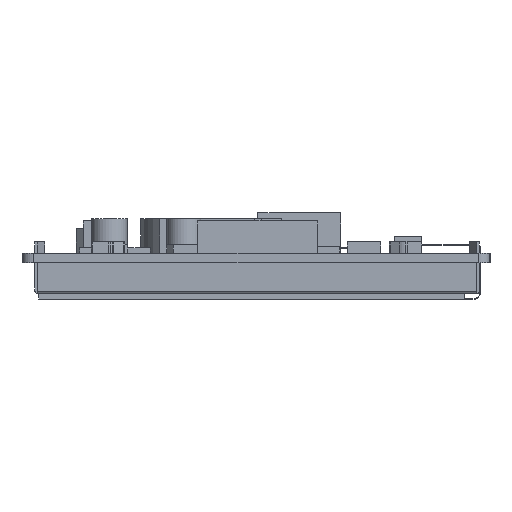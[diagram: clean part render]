
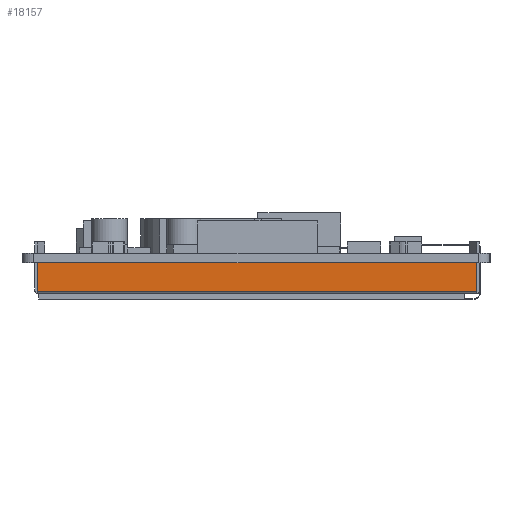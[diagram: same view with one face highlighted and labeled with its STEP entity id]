
A CAD part, left-side view. The second image highlights one B-rep face of the part: STEP entity #18157.
In plain terms, the highlighted planar face has unit normal (-1, 0, 0).
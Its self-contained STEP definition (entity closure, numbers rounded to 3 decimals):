
#18157=ADVANCED_FACE('',(#22253),#20198,.F.);
#20198=PLANE('',#50581);
#22253=FACE_OUTER_BOUND('',#24374,.T.);
#24374=EDGE_LOOP('',(#32302,#32303,#32304,#32305));
#32302=ORIENTED_EDGE('',*,*,#39910,.F.);
#32303=ORIENTED_EDGE('',*,*,#39911,.T.);
#32304=ORIENTED_EDGE('',*,*,#39912,.T.);
#32305=ORIENTED_EDGE('',*,*,#39913,.T.);
#35758=VERTEX_POINT('',#67839);
#35759=VERTEX_POINT('',#67840);
#35760=VERTEX_POINT('',#67842);
#35761=VERTEX_POINT('',#67844);
#39910=EDGE_CURVE('',#35758,#35759,#44115,.T.);
#39911=EDGE_CURVE('',#35758,#35760,#44116,.T.);
#39912=EDGE_CURVE('',#35760,#35761,#44117,.T.);
#39913=EDGE_CURVE('',#35761,#35759,#44118,.T.);
#44115=LINE('',#67838,#48245);
#44116=LINE('',#67841,#48246);
#44117=LINE('',#67843,#48247);
#44118=LINE('',#67845,#48248);
#48245=VECTOR('',#58518,1.);
#48246=VECTOR('',#58519,1.);
#48247=VECTOR('',#58520,1.);
#48248=VECTOR('',#58521,1.);
#50581=AXIS2_PLACEMENT_3D('',#67846,#58522,#58523);
#58518=DIRECTION('',(0.,0.,1.));
#58519=DIRECTION('',(0.,-1.,0.));
#58520=DIRECTION('',(0.,0.,1.));
#58521=DIRECTION('',(0.,1.,0.));
#58522=DIRECTION('',(1.,0.,0.));
#58523=DIRECTION('',(0.,1.,0.));
#67838=CARTESIAN_POINT('',(59.66,54.82,-6.9));
#67839=CARTESIAN_POINT('',(59.66,54.82,-6.5));
#67840=CARTESIAN_POINT('',(59.66,54.82,-1.6));
#67841=CARTESIAN_POINT('',(59.66,-21.2,-6.5));
#67842=CARTESIAN_POINT('',(59.66,-21.2,-6.5));
#67843=CARTESIAN_POINT('',(59.66,-21.2,-6.9));
#67844=CARTESIAN_POINT('',(59.66,-21.2,-1.6));
#67845=CARTESIAN_POINT('',(59.66,-21.2,-1.6));
#67846=CARTESIAN_POINT('',(59.66,-21.2,-6.9));
